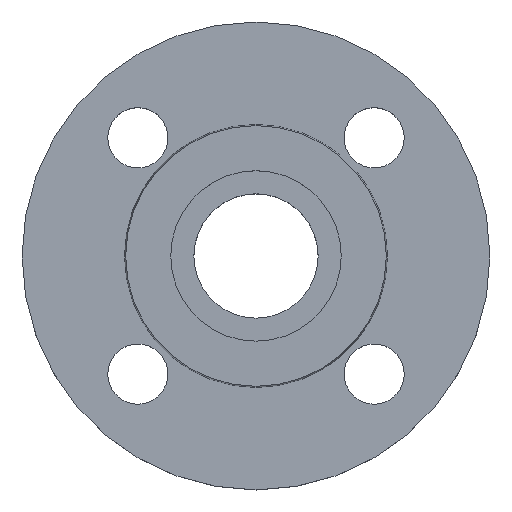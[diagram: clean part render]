
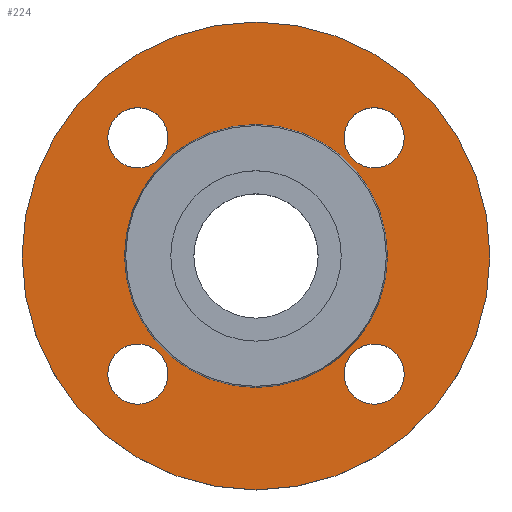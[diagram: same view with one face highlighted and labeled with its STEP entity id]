
A CAD part, top view. The second image highlights one B-rep face of the part: STEP entity #224.
In plain terms, the highlighted planar face has unit normal (0, 0, 1).
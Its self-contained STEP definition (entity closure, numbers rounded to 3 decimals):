
#16 = VERTEX_POINT ( 'NONE', #390 ) ;
#17 = CARTESIAN_POINT ( 'NONE',  ( -39.353, 0., -2. ) ) ;
#21 = DIRECTION ( 'NONE',  ( 0., 0., -1. ) ) ;
#35 = CARTESIAN_POINT ( 'NONE',  ( 0., 0., -2. ) ) ;
#57 = EDGE_CURVE ( 'NONE', #607, #851, #723, .T. ) ;
#62 = VERTEX_POINT ( 'NONE', #70 ) ;
#66 = CIRCLE ( 'NONE', #489, 70. ) ;
#70 = CARTESIAN_POINT ( 'NONE',  ( 44.355, -35.355, -2. ) ) ;
#72 = PLANE ( 'NONE',  #569 ) ;
#77 = DIRECTION ( 'NONE',  ( 0., 0., -1. ) ) ;
#87 = CARTESIAN_POINT ( 'NONE',  ( -35.355, -35.355, -2. ) ) ;
#90 = DIRECTION ( 'NONE',  ( 0., 0., -1. ) ) ;
#106 = CARTESIAN_POINT ( 'NONE',  ( 70., 0., -2. ) ) ;
#109 = EDGE_CURVE ( 'NONE', #784, #866, #352, .T. ) ;
#114 = CARTESIAN_POINT ( 'NONE',  ( 0., 0., -2. ) ) ;
#120 = CIRCLE ( 'NONE', #527, 9. ) ;
#122 = AXIS2_PLACEMENT_3D ( 'NONE', #727, #90, #389 ) ;
#129 = CIRCLE ( 'NONE', #550, 70. ) ;
#145 = ORIENTED_EDGE ( 'NONE', *, *, #501, .F. ) ;
#146 = FACE_BOUND ( 'NONE', #432, .T. ) ;
#147 = ORIENTED_EDGE ( 'NONE', *, *, #256, .T. ) ;
#150 = CARTESIAN_POINT ( 'NONE',  ( -70., 0., -2. ) ) ;
#155 = EDGE_LOOP ( 'NONE', ( #503, #145 ) ) ;
#163 = CIRCLE ( 'NONE', #677, 9. ) ;
#173 = CARTESIAN_POINT ( 'NONE',  ( 35.355, -35.355, -2. ) ) ;
#174 = CARTESIAN_POINT ( 'NONE',  ( -44.355, 35.355, -2. ) ) ;
#178 = CARTESIAN_POINT ( 'NONE',  ( 26.355, 35.355, -2. ) ) ;
#197 = CIRCLE ( 'NONE', #708, 39.353 ) ;
#206 = CIRCLE ( 'NONE', #621, 9. ) ;
#207 = EDGE_CURVE ( 'NONE', #513, #62, #419, .T. ) ;
#208 = AXIS2_PLACEMENT_3D ( 'NONE', #212, #505, #770 ) ;
#212 = CARTESIAN_POINT ( 'NONE',  ( -35.355, 35.355, -2. ) ) ;
#214 = FACE_BOUND ( 'NONE', #355, .T. ) ;
#224 = ADVANCED_FACE ( 'NONE', ( #214, #507, #774, #146, #445, #711 ), #72, .T. ) ;
#232 = ORIENTED_EDGE ( 'NONE', *, *, #494, .T. ) ;
#241 = CARTESIAN_POINT ( 'NONE',  ( 0., 0., -2. ) ) ;
#244 = CARTESIAN_POINT ( 'NONE',  ( -26.355, -35.355, -2. ) ) ;
#248 = VERTEX_POINT ( 'NONE', #150 ) ;
#256 = EDGE_CURVE ( 'NONE', #434, #16, #163, .T. ) ;
#258 = CARTESIAN_POINT ( 'NONE',  ( -35.355, 35.355, -2. ) ) ;
#269 = DIRECTION ( 'NONE',  ( 0., 0., -1. ) ) ;
#283 = EDGE_CURVE ( 'NONE', #555, #295, #531, .T. ) ;
#284 = AXIS2_PLACEMENT_3D ( 'NONE', #286, #572, #834 ) ;
#286 = CARTESIAN_POINT ( 'NONE',  ( 35.355, -35.355, -2. ) ) ;
#295 = VERTEX_POINT ( 'NONE', #17 ) ;
#300 = ORIENTED_EDGE ( 'NONE', *, *, #308, .T. ) ;
#302 = EDGE_LOOP ( 'NONE', ( #450, #232 ) ) ;
#308 = EDGE_CURVE ( 'NONE', #295, #555, #197, .T. ) ;
#318 = DIRECTION ( 'NONE',  ( 1., 0., 0. ) ) ;
#319 = CIRCLE ( 'NONE', #704, 9. ) ;
#334 = DIRECTION ( 'NONE',  ( 0., 0., -1. ) ) ;
#345 = EDGE_CURVE ( 'NONE', #62, #513, #206, .T. ) ;
#351 = AXIS2_PLACEMENT_3D ( 'NONE', #668, #21, #318 ) ;
#352 = CIRCLE ( 'NONE', #743, 9. ) ;
#355 = EDGE_LOOP ( 'NONE', ( #635, #687 ) ) ;
#367 = EDGE_CURVE ( 'NONE', #897, #248, #129, .T. ) ;
#370 = CARTESIAN_POINT ( 'NONE',  ( 39.353, 0., -2. ) ) ;
#376 = DIRECTION ( 'NONE',  ( 1., 0., 0. ) ) ;
#386 = DIRECTION ( 'NONE',  ( 0., 0., -1. ) ) ;
#389 = DIRECTION ( 'NONE',  ( -1., 0., 0. ) ) ;
#390 = CARTESIAN_POINT ( 'NONE',  ( 44.355, 35.355, -2. ) ) ;
#412 = DIRECTION ( 'NONE',  ( 0., 0., -1. ) ) ;
#414 = EDGE_CURVE ( 'NONE', #866, #784, #841, .T. ) ;
#419 = CIRCLE ( 'NONE', #284, 9. ) ;
#432 = EDGE_LOOP ( 'NONE', ( #623, #147 ) ) ;
#434 = VERTEX_POINT ( 'NONE', #178 ) ;
#445 = FACE_BOUND ( 'NONE', #563, .T. ) ;
#450 = ORIENTED_EDGE ( 'NONE', *, *, #57, .T. ) ;
#474 = DIRECTION ( 'NONE',  ( 0., 0., -1. ) ) ;
#475 = CARTESIAN_POINT ( 'NONE',  ( -44.355, -35.355, -2. ) ) ;
#489 = AXIS2_PLACEMENT_3D ( 'NONE', #114, #412, #685 ) ;
#494 = EDGE_CURVE ( 'NONE', #851, #607, #319, .T. ) ;
#501 = EDGE_CURVE ( 'NONE', #248, #897, #66, .T. ) ;
#503 = ORIENTED_EDGE ( 'NONE', *, *, #367, .F. ) ;
#505 = DIRECTION ( 'NONE',  ( 0., 0., -1. ) ) ;
#507 = FACE_BOUND ( 'NONE', #577, .T. ) ;
#513 = VERTEX_POINT ( 'NONE', #816 ) ;
#527 = AXIS2_PLACEMENT_3D ( 'NONE', #883, #269, #557 ) ;
#531 = CIRCLE ( 'NONE', #122, 39.353 ) ;
#534 = DIRECTION ( 'NONE',  ( 0., 0., -1. ) ) ;
#542 = EDGE_CURVE ( 'NONE', #16, #434, #120, .T. ) ;
#549 = DIRECTION ( 'NONE',  ( 0., 0., -1. ) ) ;
#550 = AXIS2_PLACEMENT_3D ( 'NONE', #35, #334, #617 ) ;
#555 = VERTEX_POINT ( 'NONE', #819 ) ;
#557 = DIRECTION ( 'NONE',  ( 1., 0., 0. ) ) ;
#563 = EDGE_LOOP ( 'NONE', ( #300, #745 ) ) ;
#569 = AXIS2_PLACEMENT_3D ( 'NONE', #370, #647, #902 ) ;
#572 = DIRECTION ( 'NONE',  ( 0., 0., -1. ) ) ;
#577 = EDGE_LOOP ( 'NONE', ( #798, #759 ) ) ;
#607 = VERTEX_POINT ( 'NONE', #822 ) ;
#617 = DIRECTION ( 'NONE',  ( -1., 0., 0. ) ) ;
#621 = AXIS2_PLACEMENT_3D ( 'NONE', #173, #474, #739 ) ;
#623 = ORIENTED_EDGE ( 'NONE', *, *, #542, .T. ) ;
#635 = ORIENTED_EDGE ( 'NONE', *, *, #345, .T. ) ;
#647 = DIRECTION ( 'NONE',  ( 0., 0., 1. ) ) ;
#661 = DIRECTION ( 'NONE',  ( 1., 0., 0. ) ) ;
#668 = CARTESIAN_POINT ( 'NONE',  ( -35.355, -35.355, -2. ) ) ;
#677 = AXIS2_PLACEMENT_3D ( 'NONE', #715, #77, #376 ) ;
#685 = DIRECTION ( 'NONE',  ( -1., 0., 0. ) ) ;
#687 = ORIENTED_EDGE ( 'NONE', *, *, #207, .T. ) ;
#704 = AXIS2_PLACEMENT_3D ( 'NONE', #258, #549, #813 ) ;
#708 = AXIS2_PLACEMENT_3D ( 'NONE', #241, #534, #799 ) ;
#711 = FACE_OUTER_BOUND ( 'NONE', #155, .T. ) ;
#715 = CARTESIAN_POINT ( 'NONE',  ( 35.355, 35.355, -2. ) ) ;
#723 = CIRCLE ( 'NONE', #208, 9. ) ;
#727 = CARTESIAN_POINT ( 'NONE',  ( 0., 0., -2. ) ) ;
#739 = DIRECTION ( 'NONE',  ( 1., 0., 0. ) ) ;
#743 = AXIS2_PLACEMENT_3D ( 'NONE', #87, #386, #661 ) ;
#745 = ORIENTED_EDGE ( 'NONE', *, *, #283, .T. ) ;
#759 = ORIENTED_EDGE ( 'NONE', *, *, #414, .T. ) ;
#770 = DIRECTION ( 'NONE',  ( 1., 0., 0. ) ) ;
#774 = FACE_BOUND ( 'NONE', #302, .T. ) ;
#784 = VERTEX_POINT ( 'NONE', #244 ) ;
#798 = ORIENTED_EDGE ( 'NONE', *, *, #109, .T. ) ;
#799 = DIRECTION ( 'NONE',  ( -1., 0., 0. ) ) ;
#813 = DIRECTION ( 'NONE',  ( 1., 0., 0. ) ) ;
#816 = CARTESIAN_POINT ( 'NONE',  ( 26.355, -35.355, -2. ) ) ;
#819 = CARTESIAN_POINT ( 'NONE',  ( 39.353, 0., -2. ) ) ;
#822 = CARTESIAN_POINT ( 'NONE',  ( -26.355, 35.355, -2. ) ) ;
#834 = DIRECTION ( 'NONE',  ( 1., 0., 0. ) ) ;
#841 = CIRCLE ( 'NONE', #351, 9. ) ;
#851 = VERTEX_POINT ( 'NONE', #174 ) ;
#866 = VERTEX_POINT ( 'NONE', #475 ) ;
#883 = CARTESIAN_POINT ( 'NONE',  ( 35.355, 35.355, -2. ) ) ;
#897 = VERTEX_POINT ( 'NONE', #106 ) ;
#902 = DIRECTION ( 'NONE',  ( 1., 0., 0. ) ) ;
